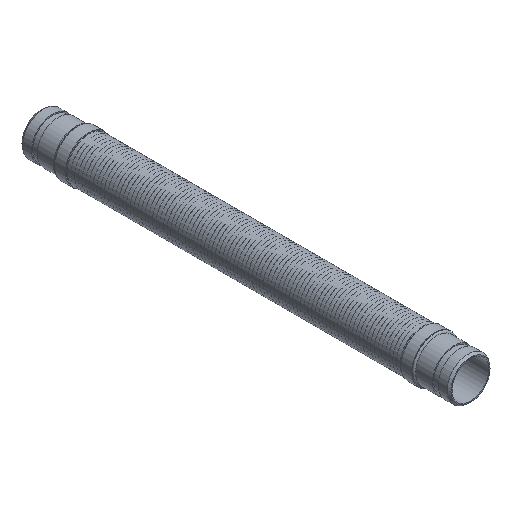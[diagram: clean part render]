
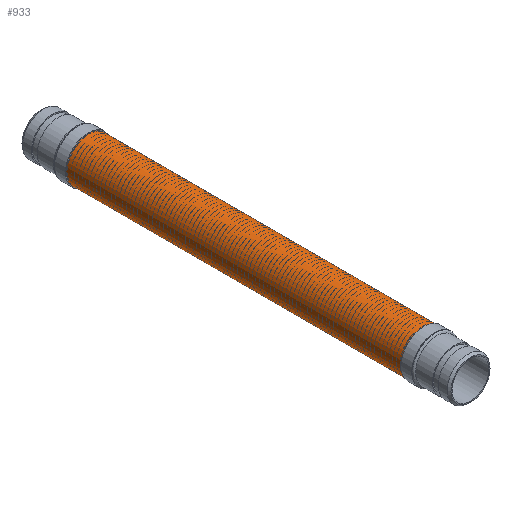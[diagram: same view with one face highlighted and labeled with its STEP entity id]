
A CAD part, isometric view. The second image highlights one B-rep face of the part: STEP entity #933.
In plain terms, the highlighted cylindrical face has radius 31.394 mm (diameter 62.789 mm), a full revolution.
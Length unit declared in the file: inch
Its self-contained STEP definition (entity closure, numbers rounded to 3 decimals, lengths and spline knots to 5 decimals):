
#899=CARTESIAN_POINT('',(-1.236,-10.0,0.));
#900=VERTEX_POINT('',#899);
#901=CARTESIAN_POINT('',(0.0,-10.0,0.0));
#902=DIRECTION('',(0.0,1.0,0.0));
#903=DIRECTION('',(1.0,0.0,0.0));
#904=AXIS2_PLACEMENT_3D('',#901,#902,#903);
#905=CIRCLE('',#904,1.236);
#906=EDGE_CURVE('',#900,#900,#905,.T.);
#914=CARTESIAN_POINT('',(0.0,0.0,0.0));
#915=DIRECTION('',(0.0,1.0,0.0));
#916=DIRECTION('',(1.0,0.0,0.0));
#917=AXIS2_PLACEMENT_3D('',#914,#915,#916);
#918=CYLINDRICAL_SURFACE('',#917,1.236);
#919=ORIENTED_EDGE('',*,*,#906,.T.);
#920=EDGE_LOOP('',(#919));
#921=FACE_OUTER_BOUND('',#920,.T.);
#922=CARTESIAN_POINT('',(-1.236,10.0,0.));
#923=VERTEX_POINT('',#922);
#924=CARTESIAN_POINT('',(0.0,10.0,0.0));
#925=DIRECTION('',(0.0,-1.0,0.0));
#926=DIRECTION('',(1.0,0.0,0.0));
#927=AXIS2_PLACEMENT_3D('',#924,#925,#926);
#928=CIRCLE('',#927,1.236);
#929=EDGE_CURVE('',#923,#923,#928,.T.);
#930=ORIENTED_EDGE('',*,*,#929,.T.);
#931=EDGE_LOOP('',(#930));
#932=FACE_BOUND('',#931,.T.);
#933=ADVANCED_FACE('',(#921,#932),#918,.T.);
